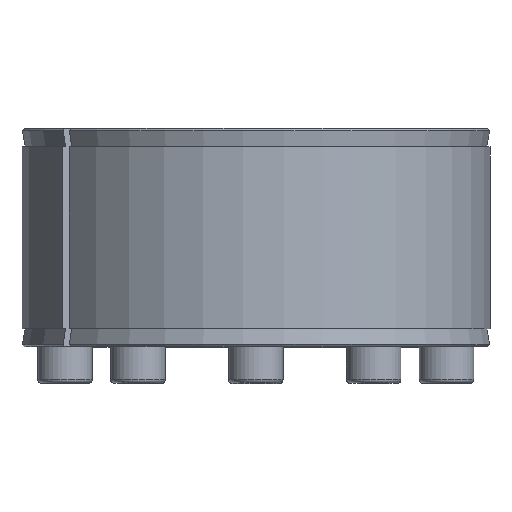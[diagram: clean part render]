
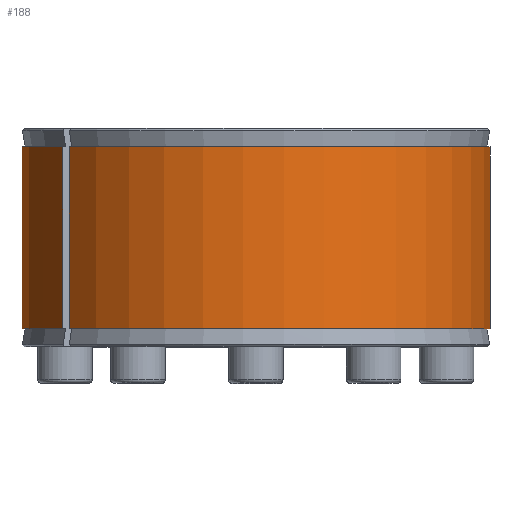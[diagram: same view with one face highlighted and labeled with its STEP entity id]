
A CAD part, top view. The second image highlights one B-rep face of the part: STEP entity #188.
In plain terms, the highlighted cylindrical face has radius 77.5 mm (diameter 155 mm), a partial arc.
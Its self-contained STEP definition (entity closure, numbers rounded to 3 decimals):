
#188 = ADVANCED_FACE( '', ( #441 ), #442, .T. );
#441 = FACE_OUTER_BOUND( '', #743, .T. );
#442 = CYLINDRICAL_SURFACE( '', #744, 77.5 );
#743 = EDGE_LOOP( '', ( #1314, #1315, #1316, #1317 ) );
#744 = AXIS2_PLACEMENT_3D( '', #1318, #1319, #1320 );
#1314 = ORIENTED_EDGE( '', *, *, #1646, .T. );
#1315 = ORIENTED_EDGE( '', *, *, #1751, .T. );
#1316 = ORIENTED_EDGE( '', *, *, #1797, .F. );
#1317 = ORIENTED_EDGE( '', *, *, #1659, .T. );
#1318 = CARTESIAN_POINT( '', ( 0., -60., 0. ) );
#1319 = DIRECTION( '', ( 0., 1., 0. ) );
#1320 = DIRECTION( '', ( 0., 0., -1. ) );
#1646 = EDGE_CURVE( '', #1998, #1996, #1999, .T. );
#1659 = EDGE_CURVE( '', #2020, #1998, #2021, .F. );
#1751 = EDGE_CURVE( '', #1996, #2169, #2171, .T. );
#1797 = EDGE_CURVE( '', #2020, #2169, #2230, .T. );
#1996 = VERTEX_POINT( '', #2581 );
#1998 = VERTEX_POINT( '', #2584 );
#1999 = CIRCLE( '', #2585, 77.5 );
#2020 = VERTEX_POINT( '', #2647 );
#2021 = LINE( '', #2648, #2649 );
#2169 = VERTEX_POINT( '', #3044 );
#2171 = LINE( '', #3047, #3048 );
#2230 = CIRCLE( '', #3117, 77.5 );
#2581 = CARTESIAN_POINT( '', ( -61.654, 66., 46.958 ) );
#2584 = CARTESIAN_POINT( '', ( -63.711, 66., 44.126 ) );
#2585 = AXIS2_PLACEMENT_3D( '', #3304, #3305, #3306 );
#2647 = CARTESIAN_POINT( '', ( -63.711, 6., 44.126 ) );
#2648 = CARTESIAN_POINT( '', ( -63.711, -60., 44.126 ) );
#2649 = VECTOR( '', #3318, 1000. );
#3044 = CARTESIAN_POINT( '', ( -61.654, 6., 46.958 ) );
#3047 = CARTESIAN_POINT( '', ( -61.654, -60., 46.958 ) );
#3048 = VECTOR( '', #3447, 1000. );
#3117 = AXIS2_PLACEMENT_3D( '', #3545, #3546, #3547 );
#3304 = CARTESIAN_POINT( '', ( 0., 66., 0. ) );
#3305 = DIRECTION( '', ( 0., -1., 0. ) );
#3306 = DIRECTION( '', ( 0., 0., -1. ) );
#3318 = DIRECTION( '', ( 0., -1., 0. ) );
#3447 = DIRECTION( '', ( 0., -1., 0. ) );
#3545 = CARTESIAN_POINT( '', ( 0., 6., 0. ) );
#3546 = DIRECTION( '', ( 0., -1., 0. ) );
#3547 = DIRECTION( '', ( 0., 0., -1. ) );
